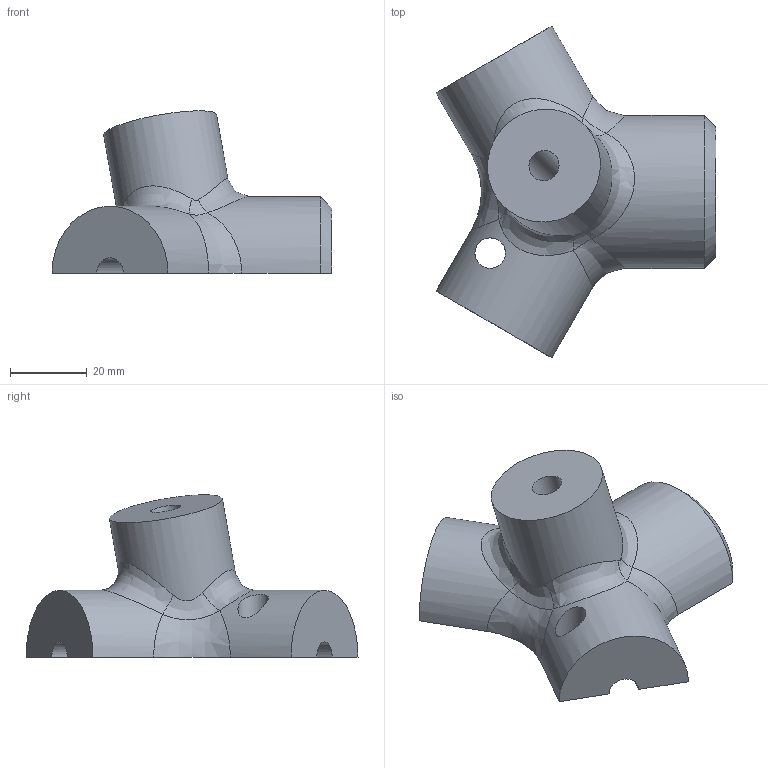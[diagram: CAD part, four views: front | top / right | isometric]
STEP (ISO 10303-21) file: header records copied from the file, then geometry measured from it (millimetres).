
FILE_DESCRIPTION(('STEP AP203'),'1');
FILE_NAME('.stp','2021-04-25T05:52:09',(' '),(' '),'Spatial InterOp 3D',' ',' ');
FILE_SCHEMA(('CONFIG_CONTROL_DESIGN'));
Length unit declared in the file: millimetre
Products named in the file (1): 1
Bounding box: 73.16 x 86.78 x 42.44 mm (x, y, z)
Volume: 65727.7 mm3; surface area: 14933.9 mm2
Topology: 1 solids, 1 shells, 32 faces, 78 edges, 50 vertices
Faces by surface type: cylinder 12, plane 10, bspline 9, cone 1
Full cylindrical faces by diameter (mm): 6 x3, 8 x2, 12 x1, 30 x1
Entity records: 3030 total; most frequent: CARTESIAN_POINT 2327, ORIENTED_EDGE 134, DIRECTION 125, EDGE_CURVE 67, AXIS2_PLACEMENT_3D 54, VERTEX_POINT 46, EDGE_LOOP 45, FACE_OUTER_BOUND 39
